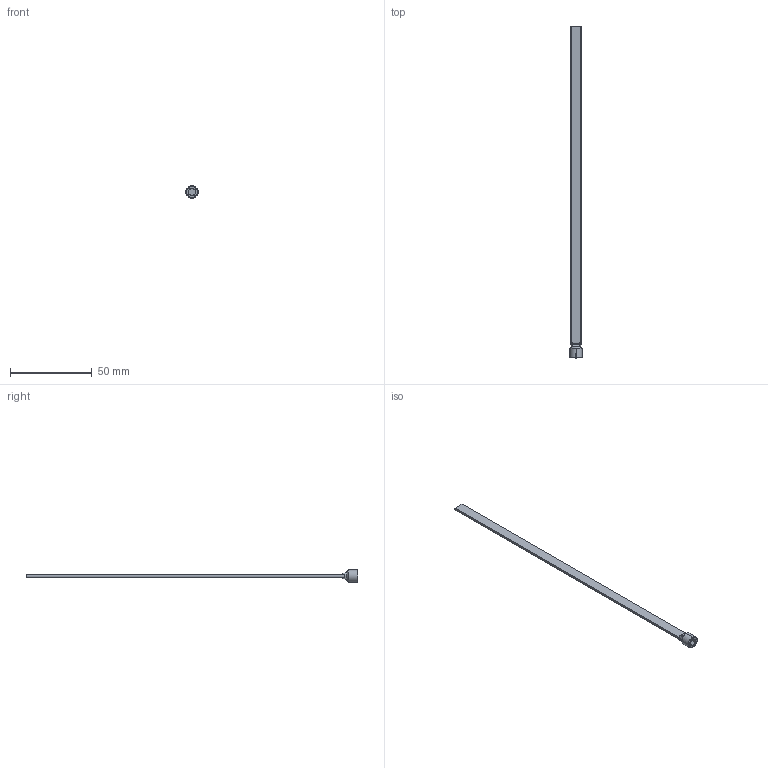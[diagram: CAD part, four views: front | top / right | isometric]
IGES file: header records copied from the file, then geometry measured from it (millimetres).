
Start section: SolidWorks IGES file using analytic representation for surfaces
Global section: file name: C:\Users\365admin\AppData\Local\Temp\InFlowConvert3DWorking\SB06L8.igs; native system: SolidWorks 2020; preprocessor: SolidWorks 2020; author: 365admin; date: 230309.101457; units: inch
Bounding box: 7.62 x 203.2 x 7.62 mm (x, y, z)
Surface area: 3260.5 mm2 (no closed solid volume)
Topology: 0 solids, 0 shells, 47 faces, 544 edges, 544 vertices
Faces by surface type: bspline 27, revolution 20
